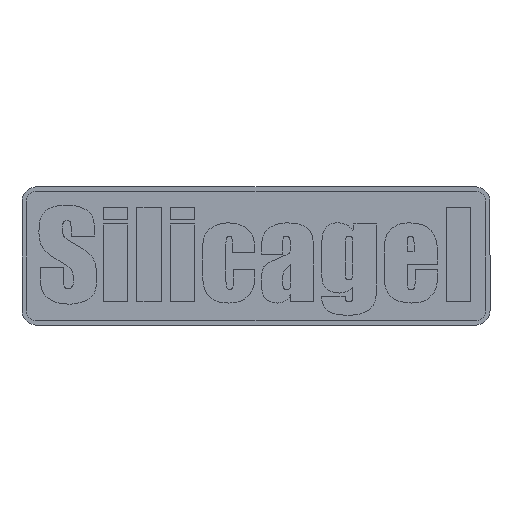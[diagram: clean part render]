
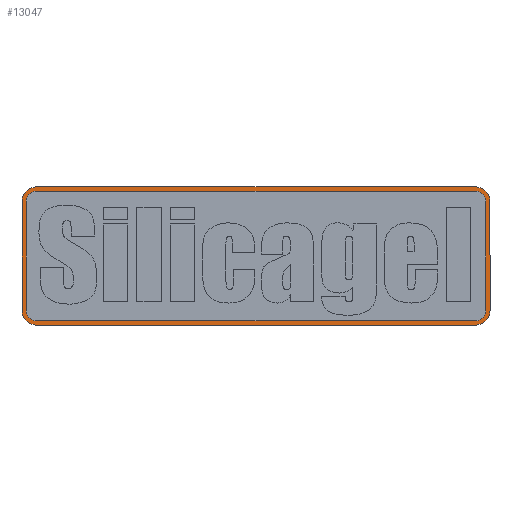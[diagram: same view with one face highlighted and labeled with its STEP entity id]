
A CAD part, top view. The second image highlights one B-rep face of the part: STEP entity #13047.
In plain terms, the highlighted planar face has unit normal (0, 0, 1).
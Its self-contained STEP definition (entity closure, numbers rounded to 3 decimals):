
#68 = AXIS2_PLACEMENT_3D ( 'NONE', #12423, #1857, #12130 ) ;
#97 = ORIENTED_EDGE ( 'NONE', *, *, #13660, .T. ) ;
#332 = DIRECTION ( 'NONE',  ( -1., 0., 0. ) ) ;
#370 = CARTESIAN_POINT ( 'NONE',  ( -33.1, 7.678, 0.3 ) ) ;
#510 = VECTOR ( 'NONE', #332, 1000. ) ;
#583 = EDGE_CURVE ( 'NONE', #9487, #8867, #8892, .T. ) ;
#609 = ORIENTED_EDGE ( 'NONE', *, *, #1881, .T. ) ;
#626 = DIRECTION ( 'NONE',  ( 0., 1., 0. ) ) ;
#651 = ORIENTED_EDGE ( 'NONE', *, *, #11318, .F. ) ;
#687 = AXIS2_PLACEMENT_3D ( 'NONE', #2441, #4669, #1278 ) ;
#767 = CARTESIAN_POINT ( 'NONE',  ( -31., 9.778, 0.3 ) ) ;
#951 = ORIENTED_EDGE ( 'NONE', *, *, #12335, .F. ) ;
#1034 = VERTEX_POINT ( 'NONE', #5599 ) ;
#1219 = DIRECTION ( 'NONE',  ( 1., 0., 0. ) ) ;
#1278 = DIRECTION ( 'NONE',  ( 1., 0., 0. ) ) ;
#1307 = CIRCLE ( 'NONE', #5227, 2.1 ) ;
#1373 = LINE ( 'NONE', #6067, #10805 ) ;
#1771 = EDGE_CURVE ( 'NONE', #6861, #3923, #12133, .T. ) ;
#1857 = DIRECTION ( 'NONE',  ( 0., 0., 1. ) ) ;
#1862 = CARTESIAN_POINT ( 'NONE',  ( 33.1, -7.678, 0.3 ) ) ;
#1867 = ORIENTED_EDGE ( 'NONE', *, *, #7954, .T. ) ;
#1881 = EDGE_CURVE ( 'NONE', #3923, #15213, #6935, .T. ) ;
#2007 = DIRECTION ( 'NONE',  ( -1., 0., 0. ) ) ;
#2042 = DIRECTION ( 'NONE',  ( 0., 0., 1. ) ) ;
#2158 = AXIS2_PLACEMENT_3D ( 'NONE', #4679, #14396, #2296 ) ;
#2296 = DIRECTION ( 'NONE',  ( 1., 0., 0. ) ) ;
#2360 = ORIENTED_EDGE ( 'NONE', *, *, #2722, .T. ) ;
#2441 = CARTESIAN_POINT ( 'NONE',  ( 31., -7.678, 0.3 ) ) ;
#2449 = AXIS2_PLACEMENT_3D ( 'NONE', #12606, #2042, #10276 ) ;
#2463 = CARTESIAN_POINT ( 'NONE',  ( -31., -9.778, 0.3 ) ) ;
#2673 = CARTESIAN_POINT ( 'NONE',  ( -31., -9.178, 0.3 ) ) ;
#2722 = EDGE_CURVE ( 'NONE', #15213, #7959, #6958, .T. ) ;
#2999 = CIRCLE ( 'NONE', #6213, 1.5 ) ;
#3139 = VECTOR ( 'NONE', #7835, 1000. ) ;
#3375 = CARTESIAN_POINT ( 'NONE',  ( 32.5, -7.678, 0.3 ) ) ;
#3448 = VERTEX_POINT ( 'NONE', #2463 ) ;
#3504 = DIRECTION ( 'NONE',  ( 1., 0., 0. ) ) ;
#3561 = CARTESIAN_POINT ( 'NONE',  ( 33.1, 7.678, 0.3 ) ) ;
#3672 = CIRCLE ( 'NONE', #687, 1.5 ) ;
#3723 = LINE ( 'NONE', #9492, #510 ) ;
#3831 = LINE ( 'NONE', #370, #14281 ) ;
#3923 = VERTEX_POINT ( 'NONE', #5615 ) ;
#3971 = CIRCLE ( 'NONE', #14095, 1.5 ) ;
#3999 = VERTEX_POINT ( 'NONE', #14450 ) ;
#4299 = LINE ( 'NONE', #8986, #3139 ) ;
#4346 = FACE_OUTER_BOUND ( 'NONE', #6426, .T. ) ;
#4393 = CARTESIAN_POINT ( 'NONE',  ( -33.1, 7.678, 0.3 ) ) ;
#4480 = CARTESIAN_POINT ( 'NONE',  ( 32.5, 7.678, 0.3 ) ) ;
#4669 = DIRECTION ( 'NONE',  ( 0., 0., 1. ) ) ;
#4679 = CARTESIAN_POINT ( 'NONE',  ( -31., -7.678, 0.3 ) ) ;
#4857 = VERTEX_POINT ( 'NONE', #12797 ) ;
#4930 = VERTEX_POINT ( 'NONE', #13116 ) ;
#4937 = CARTESIAN_POINT ( 'NONE',  ( -31., -7.678, 0.3 ) ) ;
#5121 = DIRECTION ( 'NONE',  ( 0., 0., 1. ) ) ;
#5227 = AXIS2_PLACEMENT_3D ( 'NONE', #8366, #5121, #9817 ) ;
#5480 = AXIS2_PLACEMENT_3D ( 'NONE', #8927, #12416, #7843 ) ;
#5481 = LINE ( 'NONE', #1862, #11563 ) ;
#5599 = CARTESIAN_POINT ( 'NONE',  ( -33.1, -7.678, 0.3 ) ) ;
#5615 = CARTESIAN_POINT ( 'NONE',  ( 31., 9.778, 0.3 ) ) ;
#5843 = DIRECTION ( 'NONE',  ( 0., 1., 0. ) ) ;
#5934 = DIRECTION ( 'NONE',  ( 0., 0., 1. ) ) ;
#6067 = CARTESIAN_POINT ( 'NONE',  ( -31., -9.778, 0.3 ) ) ;
#6213 = AXIS2_PLACEMENT_3D ( 'NONE', #6819, #12778, #15197 ) ;
#6426 = EDGE_LOOP ( 'NONE', ( #12663, #11775, #13066, #1867, #13441, #609, #2360, #97 ) ) ;
#6688 = VECTOR ( 'NONE', #2007, 1000. ) ;
#6803 = VERTEX_POINT ( 'NONE', #11107 ) ;
#6819 = CARTESIAN_POINT ( 'NONE',  ( -31., 7.678, 0.3 ) ) ;
#6861 = VERTEX_POINT ( 'NONE', #3561 ) ;
#6935 = LINE ( 'NONE', #9160, #6688 ) ;
#6950 = VERTEX_POINT ( 'NONE', #9931 ) ;
#6958 = CIRCLE ( 'NONE', #5480, 2.1 ) ;
#7129 = VECTOR ( 'NONE', #14916, 1000. ) ;
#7620 = EDGE_CURVE ( 'NONE', #6803, #4930, #8863, .T. ) ;
#7835 = DIRECTION ( 'NONE',  ( 0., -1., 0. ) ) ;
#7843 = DIRECTION ( 'NONE',  ( 1., 0., 0. ) ) ;
#7881 = PLANE ( 'NONE',  #2449 ) ;
#7954 = EDGE_CURVE ( 'NONE', #10896, #6861, #5481, .T. ) ;
#7959 = VERTEX_POINT ( 'NONE', #4393 ) ;
#8119 = DIRECTION ( 'NONE',  ( 0., 0., 1. ) ) ;
#8247 = ORIENTED_EDGE ( 'NONE', *, *, #583, .F. ) ;
#8361 = ORIENTED_EDGE ( 'NONE', *, *, #10957, .F. ) ;
#8366 = CARTESIAN_POINT ( 'NONE',  ( 31., -7.678, 0.3 ) ) ;
#8556 = CARTESIAN_POINT ( 'NONE',  ( 32.5, -7.678, 0.3 ) ) ;
#8665 = ORIENTED_EDGE ( 'NONE', *, *, #7620, .F. ) ;
#8863 = LINE ( 'NONE', #2673, #7129 ) ;
#8867 = VERTEX_POINT ( 'NONE', #9223 ) ;
#8892 = CIRCLE ( 'NONE', #10126, 1.5 ) ;
#8927 = CARTESIAN_POINT ( 'NONE',  ( -31., 7.678, 0.3 ) ) ;
#8986 = CARTESIAN_POINT ( 'NONE',  ( -32.5, 7.678, 0.3 ) ) ;
#9035 = FACE_BOUND ( 'NONE', #10969, .T. ) ;
#9139 = LINE ( 'NONE', #3375, #9793 ) ;
#9160 = CARTESIAN_POINT ( 'NONE',  ( 31., 9.778, 0.3 ) ) ;
#9223 = CARTESIAN_POINT ( 'NONE',  ( 31., 9.178, 0.3 ) ) ;
#9487 = VERTEX_POINT ( 'NONE', #4480 ) ;
#9492 = CARTESIAN_POINT ( 'NONE',  ( 31., 9.178, 0.3 ) ) ;
#9793 = VECTOR ( 'NONE', #5843, 1000. ) ;
#9817 = DIRECTION ( 'NONE',  ( 1., 0., 0. ) ) ;
#9907 = EDGE_CURVE ( 'NONE', #6950, #3999, #2999, .T. ) ;
#9931 = CARTESIAN_POINT ( 'NONE',  ( -31., 9.178, 0.3 ) ) ;
#10126 = AXIS2_PLACEMENT_3D ( 'NONE', #15172, #8119, #3504 ) ;
#10276 = DIRECTION ( 'NONE',  ( 1., 0., 0. ) ) ;
#10474 = VERTEX_POINT ( 'NONE', #13329 ) ;
#10741 = EDGE_CURVE ( 'NONE', #4857, #10896, #1307, .T. ) ;
#10805 = VECTOR ( 'NONE', #1219, 1000. ) ;
#10896 = VERTEX_POINT ( 'NONE', #14075 ) ;
#10957 = EDGE_CURVE ( 'NONE', #8867, #6950, #3723, .T. ) ;
#10969 = EDGE_LOOP ( 'NONE', ( #8665, #651, #951, #11022, #8361, #8247, #13495, #13358 ) ) ;
#11022 = ORIENTED_EDGE ( 'NONE', *, *, #9907, .F. ) ;
#11107 = CARTESIAN_POINT ( 'NONE',  ( -31., -9.178, 0.3 ) ) ;
#11318 = EDGE_CURVE ( 'NONE', #10474, #6803, #3971, .T. ) ;
#11563 = VECTOR ( 'NONE', #626, 1000. ) ;
#11775 = ORIENTED_EDGE ( 'NONE', *, *, #13673, .T. ) ;
#11785 = DIRECTION ( 'NONE',  ( 0., -1., 0. ) ) ;
#12130 = DIRECTION ( 'NONE',  ( 1., 0., 0. ) ) ;
#12133 = CIRCLE ( 'NONE', #68, 2.1 ) ;
#12229 = EDGE_CURVE ( 'NONE', #14195, #9487, #9139, .T. ) ;
#12335 = EDGE_CURVE ( 'NONE', #3999, #10474, #4299, .T. ) ;
#12416 = DIRECTION ( 'NONE',  ( 0., 0., 1. ) ) ;
#12423 = CARTESIAN_POINT ( 'NONE',  ( 31., 7.678, 0.3 ) ) ;
#12606 = CARTESIAN_POINT ( 'NONE',  ( -31., -7.678, 0.3 ) ) ;
#12625 = EDGE_CURVE ( 'NONE', #1034, #3448, #12757, .T. ) ;
#12663 = ORIENTED_EDGE ( 'NONE', *, *, #12625, .T. ) ;
#12757 = CIRCLE ( 'NONE', #2158, 2.1 ) ;
#12778 = DIRECTION ( 'NONE',  ( 0., 0., 1. ) ) ;
#12797 = CARTESIAN_POINT ( 'NONE',  ( 31., -9.778, 0.3 ) ) ;
#13047 = ADVANCED_FACE ( 'NONE', ( #4346, #9035 ), #7881, .T. ) ;
#13066 = ORIENTED_EDGE ( 'NONE', *, *, #10741, .T. ) ;
#13116 = CARTESIAN_POINT ( 'NONE',  ( 31., -9.178, 0.3 ) ) ;
#13137 = EDGE_CURVE ( 'NONE', #4930, #14195, #3672, .T. ) ;
#13329 = CARTESIAN_POINT ( 'NONE',  ( -32.5, -7.678, 0.3 ) ) ;
#13358 = ORIENTED_EDGE ( 'NONE', *, *, #13137, .F. ) ;
#13441 = ORIENTED_EDGE ( 'NONE', *, *, #1771, .T. ) ;
#13495 = ORIENTED_EDGE ( 'NONE', *, *, #12229, .F. ) ;
#13660 = EDGE_CURVE ( 'NONE', #7959, #1034, #3831, .T. ) ;
#13673 = EDGE_CURVE ( 'NONE', #3448, #4857, #1373, .T. ) ;
#14075 = CARTESIAN_POINT ( 'NONE',  ( 33.1, -7.678, 0.3 ) ) ;
#14095 = AXIS2_PLACEMENT_3D ( 'NONE', #4937, #5934, #14440 ) ;
#14195 = VERTEX_POINT ( 'NONE', #8556 ) ;
#14281 = VECTOR ( 'NONE', #11785, 1000. ) ;
#14396 = DIRECTION ( 'NONE',  ( 0., 0., 1. ) ) ;
#14440 = DIRECTION ( 'NONE',  ( 1., 0., 0. ) ) ;
#14450 = CARTESIAN_POINT ( 'NONE',  ( -32.5, 7.678, 0.3 ) ) ;
#14916 = DIRECTION ( 'NONE',  ( 1., 0., 0. ) ) ;
#15172 = CARTESIAN_POINT ( 'NONE',  ( 31., 7.678, 0.3 ) ) ;
#15197 = DIRECTION ( 'NONE',  ( 1., 0., 0. ) ) ;
#15213 = VERTEX_POINT ( 'NONE', #767 ) ;
